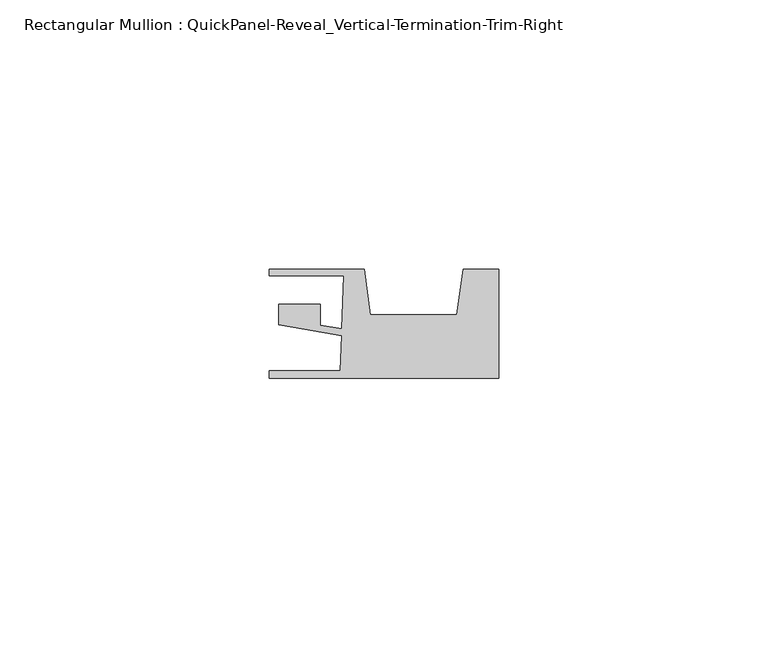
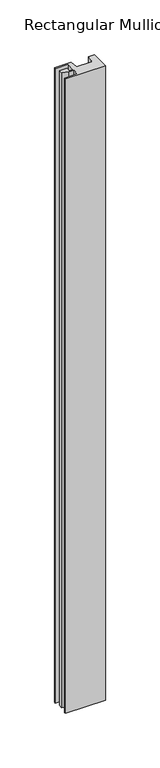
"""IFC4 building model written with IfcOpenShell, lengths in millimetres: member geometry, Rectangular Mullion : QuickPanel-Reveal_Vertical-Termination-Trim-Right."""

import ifcopenshell
import ifcopenshell.guid

model = None  # the IFC model being written
_history = None  # IfcOwnerHistory: only IFC2X3 demands one
_inside = {}  # id of a spatial element -> (the spatial element, [elements in it])
_under = {}  # id of a project, library or spatial element -> (it, [spatial elements below it])
_declared = {}  # id of a project -> (the project, [libraries it declares])
_typed = {}  # id of a type object -> (the type object, [elements of that type])
_made_of = {}  # id of a material, layer set ... -> (it, [elements and type objects made of it])


def new_model(schema):
    """Start an empty IFC model of exactly this schema.

    Asked for "IFC4X3", IfcOpenShell would pick the latest addendum, in which some entities
    have other attributes; the version numbers below select the first issue.
    IFC2X3 requires an IfcOwnerHistory on every rooted entity: one is made here for all.
    """
    global model, _history
    if schema == "IFC4X3":
        model = ifcopenshell.file(schema_version=(4, 3, 0, 0))
    else:
        model = ifcopenshell.file(schema=schema)
    _inside.clear()
    _under.clear()
    _declared.clear()
    _typed.clear()
    _made_of.clear()
    _history = None
    if model.schema == "IFC2X3":
        org = make("IfcOrganization", Name="unknown")
        user = make(
            "IfcPersonAndOrganization",
            ThePerson=make("IfcPerson", FamilyName="unknown"),
            TheOrganization=org,
        )
        app = make(
            "IfcApplication",
            ApplicationDeveloper=org,
            Version="unknown",
            ApplicationFullName="unknown",
            ApplicationIdentifier="unknown",
        )
        _history = make(
            "IfcOwnerHistory",
            OwningUser=user,
            OwningApplication=app,
            ChangeAction="ADDED",
            CreationDate=0,
        )
    return model


def make(cls, **values):
    """One entity of the class cls with the attributes given. An attribute that is None is left unset."""
    return model.create_entity(
        cls, **{name: value for name, value in values.items() if value is not None}
    )


def rooted(cls, **values):
    """An entity with a GlobalId (a new one), such as an element, a storey or a relation."""
    return make(cls, GlobalId=ifcopenshell.guid.new(), OwnerHistory=_history, **values)


def si_unit(unit_type, name, prefix=None):
    """IfcSIUnit, for example si_unit("LENGTHUNIT", "METRE", prefix="MILLI")."""
    return make("IfcSIUnit", UnitType=unit_type, Prefix=prefix, Name=name)


def assignment(units):
    """IfcUnitAssignment: the units of a project."""
    return None if units is None else make("IfcUnitAssignment", Units=units)


def point(xyz):
    """IfcCartesianPoint."""
    return None if xyz is None else make("IfcCartesianPoint", Coordinates=xyz)


def direction(xyz):
    """IfcDirection."""
    return None if xyz is None else make("IfcDirection", DirectionRatios=xyz)


def frame(location, z_axis=None, x_axis=None):
    """IfcAxis2Placement3D, a coordinate frame: its origin and axes. An axis left out is left unset."""
    return make(
        "IfcAxis2Placement3D",
        Location=point(location),
        Axis=direction(z_axis),
        RefDirection=direction(x_axis),
    )


def origin():
    """The frame at (0, 0, 0) with its axes left unset."""
    return frame((0.0, 0.0, 0.0))


def place(relative_to, where):
    """IfcLocalPlacement: puts the frame where relative to a parent placement (None: the world)."""
    return make(
        "IfcLocalPlacement", PlacementRelTo=relative_to, RelativePlacement=where
    )


def context(
    kind, dimensions, precision=None, world=None, true_north=None, identifier=None
):
    """IfcGeometricRepresentationContext, for example the 3D "Model" context."""
    return make(
        "IfcGeometricRepresentationContext",
        ContextIdentifier=identifier,
        ContextType=kind,
        CoordinateSpaceDimension=dimensions,
        Precision=precision,
        WorldCoordinateSystem=world,
        TrueNorth=true_north,
    )


def project(units=None, contexts=None):
    """IfcProject with its units and contexts."""
    return rooted(
        "IfcProject",
        Name="project",
        RepresentationContexts=contexts,
        UnitsInContext=assignment(units),
    )


def spatial(cls, under=None, at=None, **own):
    """A site, building, storey or space (cls), placed at a placement, below another one or the project."""
    s = rooted(cls, ObjectPlacement=at, **own)
    if under is not None:
        _under.setdefault(under.id(), (under, []))[1].append(s)
    return s


def polyline(points):
    """IfcPolyline through the points."""
    return make("IfcPolyline", Points=[point(p) for p in points])


def outline(outer, holes=None, kind="AREA"):
    """IfcArbitraryClosedProfileDef: a profile drawn as a closed curve; with holes, ...WithVoids."""
    if holes is None:
        return make("IfcArbitraryClosedProfileDef", ProfileType=kind, OuterCurve=outer)
    return make(
        "IfcArbitraryProfileDefWithVoids",
        ProfileType=kind,
        OuterCurve=outer,
        InnerCurves=holes,
    )


def extrude(swept, where, along, depth):
    """IfcExtrudedAreaSolid: the profile swept, set in the frame where, extruded along a direction by depth."""
    return make(
        "IfcExtrudedAreaSolid",
        SweptArea=swept,
        Position=where,
        ExtrudedDirection=direction(along),
        Depth=depth,
    )


def shape(context_of_items, identifier, shape_type, items):
    """IfcShapeRepresentation: the items that make up one representation, for example the "Body"."""
    return make(
        "IfcShapeRepresentation",
        ContextOfItems=context_of_items,
        RepresentationIdentifier=identifier,
        RepresentationType=shape_type,
        Items=items,
    )


def source(mapping_origin, context_of_items, identifier, shape_type, items):
    """IfcRepresentationMap: a shape defined once, which mapped items show again and again."""
    return make(
        "IfcRepresentationMap",
        MappingOrigin=mapping_origin,
        MappedRepresentation=shape(context_of_items, identifier, shape_type, items),
    )


def transform(
    local_origin,
    x_axis=None,
    y_axis=None,
    z_axis=None,
    scale=None,
    scale2=None,
    scale3=None,
    uniform=True,
):
    """IfcCartesianTransformationOperator3D, or its non-uniform kind. x_axis, y_axis, z_axis: its Axis1, 2, 3."""
    if uniform:
        return make(
            "IfcCartesianTransformationOperator3D",
            Axis1=direction(x_axis),
            Axis2=direction(y_axis),
            LocalOrigin=point(local_origin),
            Scale=scale,
            Axis3=direction(z_axis),
        )
    return make(
        "IfcCartesianTransformationOperator3DnonUniform",
        Axis1=direction(x_axis),
        Axis2=direction(y_axis),
        LocalOrigin=point(local_origin),
        Scale=scale,
        Axis3=direction(z_axis),
        Scale2=scale2,
        Scale3=scale3,
    )


def mapped(mapping_source, mapping_target):
    """IfcMappedItem: shows the shape of a source again, moved by a transform."""
    return make(
        "IfcMappedItem", MappingSource=mapping_source, MappingTarget=mapping_target
    )


def made_of(thing, what):
    """Note that an element or type object is made of a material, layer set ...; save() writes the relation."""
    if what is not None:
        _made_of.setdefault(what.id(), (what, []))[1].append(thing)
    return thing


def element(
    cls,
    number,
    at=None,
    inside=None,
    cuts=None,
    type_object=None,
    material=None,
    context=None,
    identifier="Body",
    shape_type=None,
    held_by="IfcProductDefinitionShape",
    body=None,
    shapes=None,
    **own,
):
    """One element of the class cls, such as IfcWall. Its Tag is "e" and its number.

    at: its placement. inside: the storey or other place that contains it. cuts: it is an
    opening in that element (IfcRelVoidsElement). A single representation is given by context,
    identifier, shape_type and body (its items); several are given by shapes. held_by: the class
    of the entity that holds the representations. save() writes the other relations.
    """
    e = rooted(cls, Tag="e%d" % number, ObjectPlacement=at, **own)
    if body is not None:
        shapes = [shape(context, identifier, shape_type, body)]
    if shapes is not None:
        e.Representation = make(held_by, Representations=shapes)
    if inside is not None:
        _inside.setdefault(inside.id(), (inside, []))[1].append(e)
    if cuts is not None:
        rooted(
            "IfcRelVoidsElement", RelatingBuildingElement=cuts, RelatedOpeningElement=e
        )
    if type_object is not None:
        _typed.setdefault(type_object.id(), (type_object, []))[1].append(e)
    return made_of(e, material)


def aggregate(whole, parts):
    """IfcRelAggregates: a whole, such as a stair, and the parts it consists of."""
    return rooted("IfcRelAggregates", RelatingObject=whole, RelatedObjects=parts)


def save(model, path):
    """Write the relations noted so far, then the file.

    IfcRelAggregates (storeys below a building ...), IfcRelContainedInSpatialStructure (elements
    in a storey), IfcRelDefinesByType, IfcRelAssociatesMaterial and IfcRelDeclares: one each for
    every whole, place, type object, material and project.
    """
    for whole, parts in _under.values():
        aggregate(whole, parts)
    for where, things in _inside.values():
        rooted(
            "IfcRelContainedInSpatialStructure",
            RelatedElements=things,
            RelatingStructure=where,
        )
    for kind, things in _typed.values():
        rooted("IfcRelDefinesByType", RelatedObjects=things, RelatingType=kind)
    for what, things in _made_of.values():
        rooted("IfcRelAssociatesMaterial", RelatedObjects=things, RelatingMaterial=what)
    for by, libraries in _declared.values():
        rooted("IfcRelDeclares", RelatingContext=by, RelatedDefinitions=libraries)
    model.write(path)


def rectangular_mullion_quickpanel_reveal_vertical_termination_961054fc(model_context):
    return source(origin(), model_context, "Body", "SweptSolid", [
        extrude(outline(polyline([(-42.7011763, -8.095605), (-42.7011763, -6.6935423), (-29.4602636, -6.6935423), (-29.2334784, -0.1992641), (-34.4837593, 0.7008023), (-40.919092, 1.8040245), (-40.919092, 5.6493034), (-33.1743189, 5.6493034), (-33.1743189, 1.7648465), (-29.1887499, 1.0815922), (-28.8448229, 10.9303752), (-42.7011763, 10.9303752), (-42.7011763, 12.1803727), (-25.0522037, 12.1803727), (-23.8634859, 3.7222065), (-7.8503594, 3.7222065), (-6.6616417, 12.1803727), (0.0, 12.1803727), (0.0, -8.095605), (-42.7011763, -8.095605)])), frame((0.0, 0.0, -710.2387144), z_axis=(0.0, 0.0, 1.0), x_axis=(1.0, 0.0, 0.0)), (0.0, 0.0, 1.0), 710.2387144),
    ])


if __name__ == "__main__":
    model = new_model("IFC4")
    model_context = context("Model", 3, world=origin())
    ifc_project = project(units=[si_unit("LENGTHUNIT", "METRE", prefix="MILLI")], contexts=[model_context])
    site = spatial("IfcSite", under=ifc_project)
    building = spatial("IfcBuilding", under=site)
    placement = place(None, origin())
    rectangular_mullion_quickpanel_reveal_vertical_termination_shape = rectangular_mullion_quickpanel_reveal_vertical_termination_961054fc(model_context)
    element("IfcMember", 1, ObjectType="Rectangular Mullion : QuickPanel-Reveal_Vertical-Termination-Trim-Right", at=placement, inside=building, context=model_context, shape_type="MappedRepresentation", body=[
        mapped(rectangular_mullion_quickpanel_reveal_vertical_termination_shape, transform((0.0, 0.0, 0.0), x_axis=(1.0, 0.0, 0.0), y_axis=(0.0, 1.0, 0.0), z_axis=(0.0, 0.0, 1.0))),
    ])
    save(model, "model.ifc")
